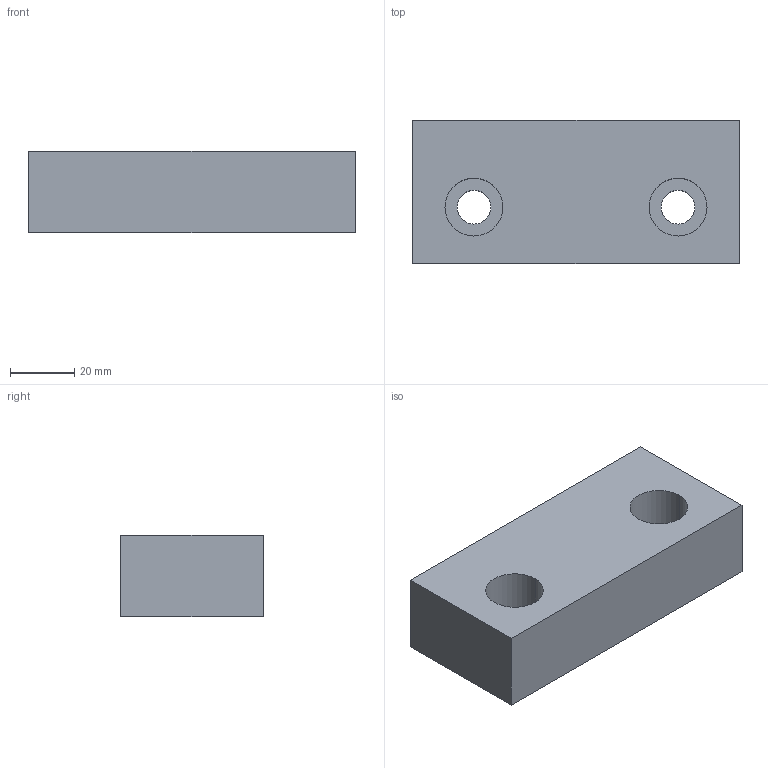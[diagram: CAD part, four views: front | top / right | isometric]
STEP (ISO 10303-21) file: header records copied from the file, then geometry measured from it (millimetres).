
FILE_DESCRIPTION (( 'STEP AP214' ), '1' );
FILE_NAME ('HMVJ-41A, S [05-0084, 05-0087 ref].step', '2023-05-05T20:38:28', ( '' ), ( '' ), 'SwSTEP 2.0', 'SolidWorks 2022', '' );
FILE_SCHEMA (( 'AUTOMOTIVE_DESIGN' ));
Length unit declared in the file: inch
Products named in the file (1): HMVJ-41A, S [05-0084, 05-0087 ref]
Bounding box: 101.6 x 44.45 x 25.4 mm (x, y, z)
Volume: 104602.8 mm3; surface area: 18582.1 mm2
Topology: 1 solids, 1 shells, 16 faces, 36 edges, 24 vertices
Faces by surface type: cylinder 8, plane 8
Entity records: 634 total; most frequent: DIRECTION 86, CARTESIAN_POINT 77, ORIENTED_EDGE 72, EDGE_CURVE 36, AXIS2_PLACEMENT_3D 33, VERTEX_POINT 24, EDGE_LOOP 22, VECTOR 20
